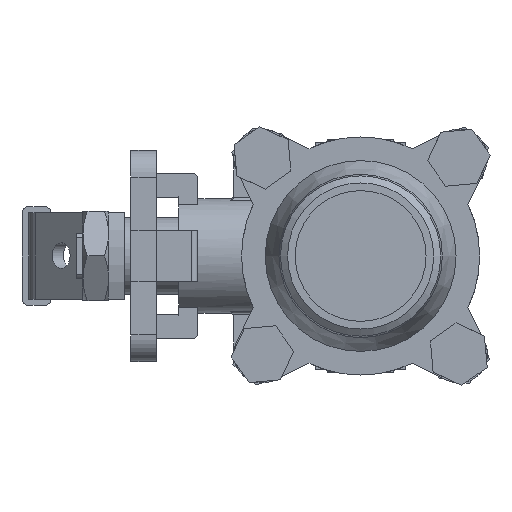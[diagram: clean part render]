
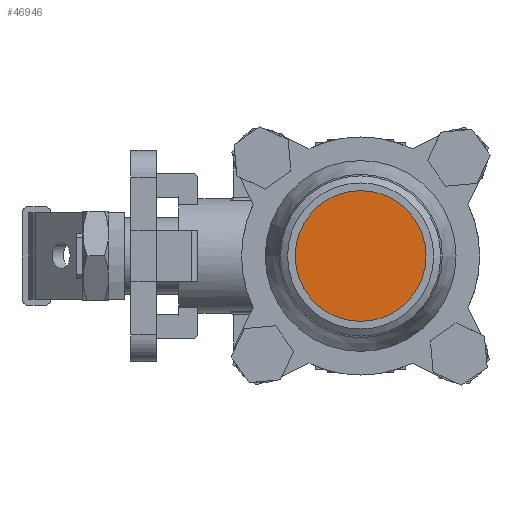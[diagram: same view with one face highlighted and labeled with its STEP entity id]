
A CAD part, left-side view. The second image highlights one B-rep face of the part: STEP entity #46946.
In plain terms, the highlighted planar face has unit normal (-1, 0, 0).
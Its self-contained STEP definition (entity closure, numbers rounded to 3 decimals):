
#46923=CARTESIAN_POINT('',(-59.0,0.,20.5));
#46924=VERTEX_POINT('',#46923);
#46925=CARTESIAN_POINT('',(-59.0,0.,0.0));
#46926=DIRECTION('',(-1.0,0.0,0.0));
#46927=DIRECTION('',(0.0,0.0,-1.0));
#46928=AXIS2_PLACEMENT_3D('',#46925,#46926,#46927);
#46929=CIRCLE('',#46928,20.5);
#46930=EDGE_CURVE('',#46924,#46924,#46929,.T.);
#46938=CARTESIAN_POINT('',(-59.0,0.,0.0));
#46939=DIRECTION('',(1.0,0.0,0.0));
#46940=DIRECTION('',(0.0,0.0,-1.0));
#46941=AXIS2_PLACEMENT_3D('',#46938,#46939,#46940);
#46942=PLANE('',#46941);
#46943=ORIENTED_EDGE('',*,*,#46930,.T.);
#46944=EDGE_LOOP('',(#46943));
#46945=FACE_OUTER_BOUND('',#46944,.T.);
#46946=ADVANCED_FACE('',(#46945),#46942,.F.);
